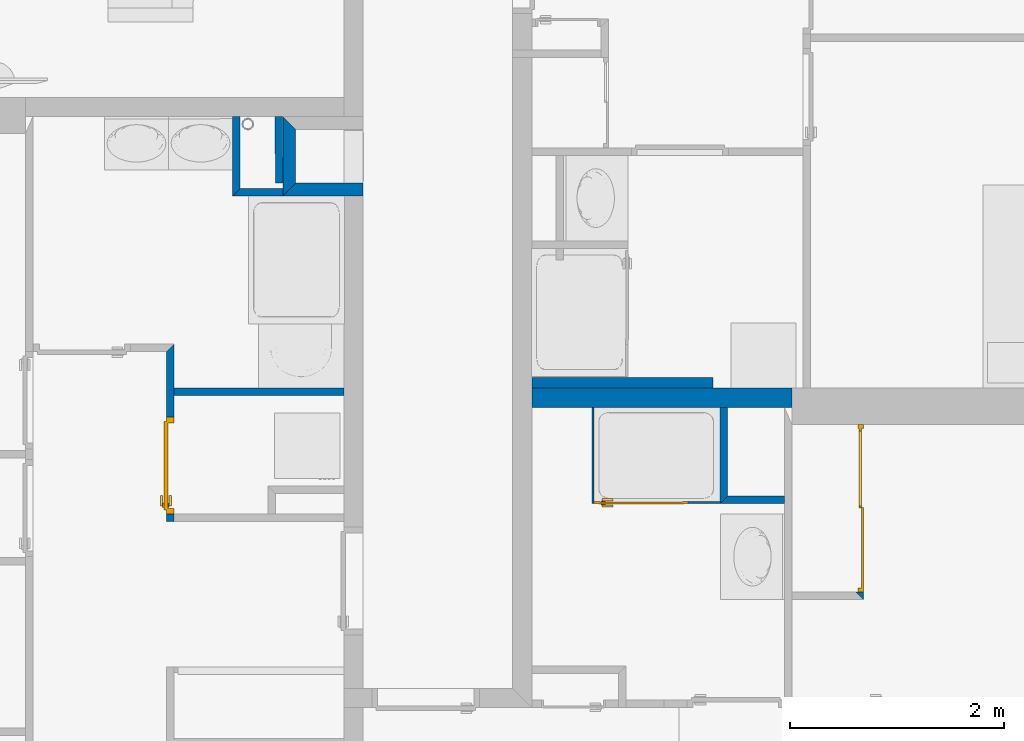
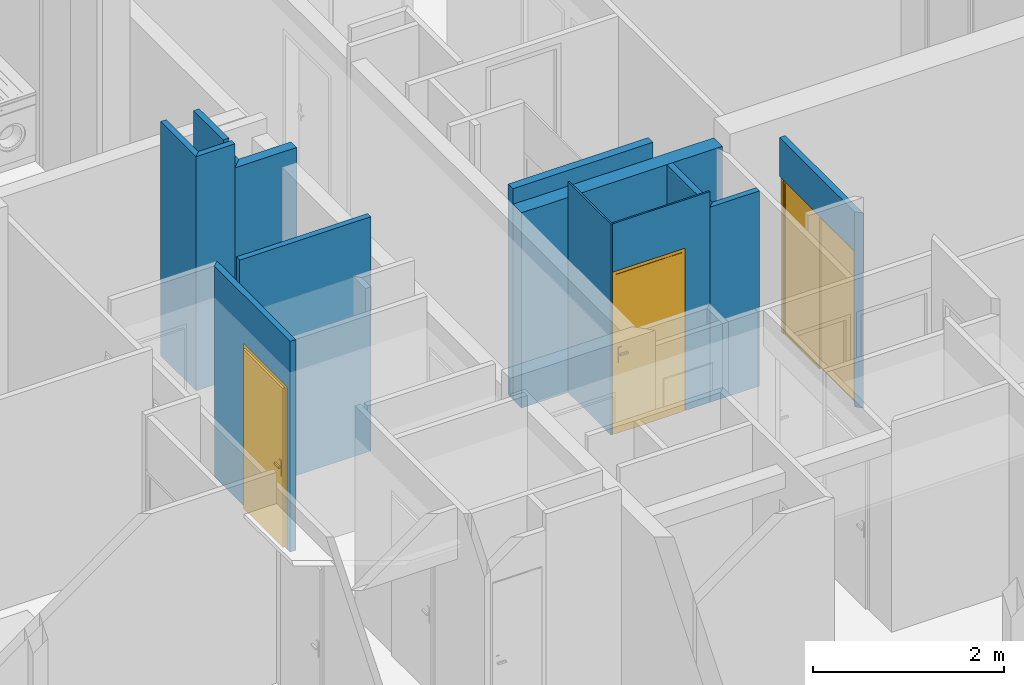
# One storey, part 33 of 171: 14 walls, 3 doors, 3 openings.
"""IFC2X3 building model written with IfcOpenShell, lengths in millimetres."""

import ifcopenshell
import ifcopenshell.guid

model = None  # the IFC model being written
_history = None  # IfcOwnerHistory: only IFC2X3 demands one
_inside = {}  # id of a spatial element -> (the spatial element, [elements in it])
_under = {}  # id of a project, library or spatial element -> (it, [spatial elements below it])
_declared = {}  # id of a project -> (the project, [libraries it declares])
_typed = {}  # id of a type object -> (the type object, [elements of that type])
_made_of = {}  # id of a material, layer set ... -> (it, [elements and type objects made of it])


def new_model(schema):
    """Start an empty IFC model of exactly this schema.

    Asked for "IFC4X3", IfcOpenShell would pick the latest addendum, in which some entities
    have other attributes; the version numbers below select the first issue.
    IFC2X3 requires an IfcOwnerHistory on every rooted entity: one is made here for all.
    """
    global model, _history
    if schema == "IFC4X3":
        model = ifcopenshell.file(schema_version=(4, 3, 0, 0))
    else:
        model = ifcopenshell.file(schema=schema)
    _inside.clear()
    _under.clear()
    _declared.clear()
    _typed.clear()
    _made_of.clear()
    _history = None
    if model.schema == "IFC2X3":
        org = make("IfcOrganization", Name="unknown")
        user = make(
            "IfcPersonAndOrganization",
            ThePerson=make("IfcPerson", FamilyName="unknown"),
            TheOrganization=org,
        )
        app = make(
            "IfcApplication",
            ApplicationDeveloper=org,
            Version="unknown",
            ApplicationFullName="unknown",
            ApplicationIdentifier="unknown",
        )
        _history = make(
            "IfcOwnerHistory",
            OwningUser=user,
            OwningApplication=app,
            ChangeAction="ADDED",
            CreationDate=0,
        )
    return model


def make(cls, **values):
    """One entity of the class cls with the attributes given. An attribute that is None is left unset."""
    return model.create_entity(
        cls, **{name: value for name, value in values.items() if value is not None}
    )


def entity(cls, *values):
    """Any entity or typed value of the class cls, its attributes in the order of the schema. None: left unset."""
    e = model.create_entity(cls)
    for i, value in enumerate(values):
        if value is not None:
            e[i] = value
    return e


def rooted(cls, **values):
    """An entity with a GlobalId (a new one), such as an element, a storey or a relation."""
    return make(cls, GlobalId=ifcopenshell.guid.new(), OwnerHistory=_history, **values)


def si_unit(unit_type, name, prefix=None):
    """IfcSIUnit, for example si_unit("LENGTHUNIT", "METRE", prefix="MILLI")."""
    return make("IfcSIUnit", UnitType=unit_type, Prefix=prefix, Name=name)


def converted_unit(unit_type, name, factor, base, dimensions=None, offset=None):
    """IfcConversionBasedUnit, such as the inch: factor (a typed value) times the base unit."""
    return make(
        "IfcConversionBasedUnit"
        if offset is None
        else "IfcConversionBasedUnitWithOffset",
        ConversionOffset=offset,
        Dimensions=None
        if dimensions is None
        else entity("IfcDimensionalExponents", *dimensions),
        UnitType=unit_type,
        Name=name,
        ConversionFactor=make(
            "IfcMeasureWithUnit", ValueComponent=factor, UnitComponent=base
        ),
    )


def derived_unit(unit_type, elements):
    """IfcDerivedUnit: a product of units, each with its exponent."""
    return make(
        "IfcDerivedUnit",
        Elements=[
            make("IfcDerivedUnitElement", Unit=unit, Exponent=power)
            for unit, power in elements
        ],
        UnitType=unit_type,
    )


def money_unit(currency):
    """IfcMonetaryUnit."""
    return make("IfcMonetaryUnit", Currency=currency)


def assignment(units):
    """IfcUnitAssignment: the units of a project."""
    return None if units is None else make("IfcUnitAssignment", Units=units)


def point(xyz):
    """IfcCartesianPoint."""
    return None if xyz is None else make("IfcCartesianPoint", Coordinates=xyz)


def direction(xyz):
    """IfcDirection."""
    return None if xyz is None else make("IfcDirection", DirectionRatios=xyz)


def frame(location, z_axis=None, x_axis=None):
    """IfcAxis2Placement3D, a coordinate frame: its origin and axes. An axis left out is left unset."""
    return make(
        "IfcAxis2Placement3D",
        Location=point(location),
        Axis=direction(z_axis),
        RefDirection=direction(x_axis),
    )


def frame_2d(location, x_axis=None):
    """IfcAxis2Placement2D, a coordinate frame in the plane: its origin and x axis."""
    return make(
        "IfcAxis2Placement2D", Location=point(location), RefDirection=direction(x_axis)
    )


def origin_with_axes():
    """The frame at (0, 0, 0) with the z axis (0, 0, 1) and the x axis (1, 0, 0) written out."""
    return frame((0.0, 0.0, 0.0), z_axis=(0.0, 0.0, 1.0), x_axis=(1.0, 0.0, 0.0))


def origin_2d_with_axis():
    """The frame at (0, 0) in the plane with the x axis (1, 0) written out."""
    return frame_2d((0.0, 0.0), x_axis=(1.0, 0.0))


def place(relative_to, where):
    """IfcLocalPlacement: puts the frame where relative to a parent placement (None: the world)."""
    return make(
        "IfcLocalPlacement", PlacementRelTo=relative_to, RelativePlacement=where
    )


def context(
    kind, dimensions, precision=None, world=None, true_north=None, identifier=None
):
    """IfcGeometricRepresentationContext, for example the 3D "Model" context."""
    return make(
        "IfcGeometricRepresentationContext",
        ContextIdentifier=identifier,
        ContextType=kind,
        CoordinateSpaceDimension=dimensions,
        Precision=precision,
        WorldCoordinateSystem=world,
        TrueNorth=true_north,
    )


def subcontext(parent, identifier, kind, view, scale=None):
    """IfcGeometricRepresentationSubContext, for example "Body" below "Model"."""
    return make(
        "IfcGeometricRepresentationSubContext",
        ContextIdentifier=identifier,
        ContextType=kind,
        ParentContext=parent,
        TargetScale=scale,
        TargetView=view,
    )


def project(units=None, contexts=None):
    """IfcProject with its units and contexts."""
    return rooted(
        "IfcProject",
        Name="project",
        RepresentationContexts=contexts,
        UnitsInContext=assignment(units),
    )


def spatial(cls, under=None, at=None, **own):
    """A site, building, storey or space (cls), placed at a placement, below another one or the project."""
    s = rooted(cls, ObjectPlacement=at, **own)
    if under is not None:
        _under.setdefault(under.id(), (under, []))[1].append(s)
    return s


def polyline(points):
    """IfcPolyline through the points."""
    return make("IfcPolyline", Points=[point(p) for p in points])


def profile(cls, at=None, kind="AREA", **sizes):
    """A parametric profile (cls). Its sizes go by their IFC names, for example OverallWidth=200.0."""
    return make(cls, ProfileType=kind, Position=at, **sizes)


def rectangle(**sizes):
    """IfcRectangleProfileDef."""
    return profile("IfcRectangleProfileDef", **sizes)


def outline(outer, holes=None, kind="AREA"):
    """IfcArbitraryClosedProfileDef: a profile drawn as a closed curve; with holes, ...WithVoids."""
    if holes is None:
        return make("IfcArbitraryClosedProfileDef", ProfileType=kind, OuterCurve=outer)
    return make(
        "IfcArbitraryProfileDefWithVoids",
        ProfileType=kind,
        OuterCurve=outer,
        InnerCurves=holes,
    )


def extrude(swept, where, along, depth):
    """IfcExtrudedAreaSolid: the profile swept, set in the frame where, extruded along a direction by depth."""
    return make(
        "IfcExtrudedAreaSolid",
        SweptArea=swept,
        Position=where,
        ExtrudedDirection=direction(along),
        Depth=depth,
    )


def faces_of(points, faces, orient=None, outer=None):
    """IfcFace entities. A face is a list of loops; a loop is a list of indices into points, from 0.

    orient and outer hold one flag for each loop. By default every Orientation is true, the
    first loop of a face is its IfcFaceOuterBound and the others are IfcFaceBound.
    """
    made = []
    for i, loops in enumerate(faces):
        bounds = []
        for j, loop in enumerate(loops):
            is_outer = j == 0 if outer is None else outer[i][j]
            bounds.append(
                make(
                    "IfcFaceOuterBound" if is_outer else "IfcFaceBound",
                    Bound=make("IfcPolyLoop", Polygon=[points[k] for k in loop]),
                    Orientation=True if orient is None else orient[i][j],
                )
            )
        made.append(make("IfcFace", Bounds=bounds))
    return made


def open_shell(faces, orient=None, outer=None):
    """The faces of one IfcOpenShell. surface_model builds it on its shared points."""
    return ("IfcOpenShell", faces, orient, outer)


def faceted_brep(points, faces, orient=None, outer=None, voids=None):
    """IfcFacetedBrep: a solid bounded by flat faces; with voids (closed shells), ...WithVoids."""
    shared = [point(p) for p in points]
    hull = make("IfcClosedShell", CfsFaces=faces_of(shared, faces, orient, outer))
    if voids is None:
        return make("IfcFacetedBrep", Outer=hull)
    return make(
        "IfcFacetedBrepWithVoids",
        Outer=hull,
        Voids=[
            make(cls, CfsFaces=faces_of(shared, fs, o, b)) for cls, fs, o, b in voids
        ],
    )


def surface_model(cls, points, shells):
    """IfcFaceBasedSurfaceModel or IfcShellBasedSurfaceModel (cls): surfaces that need not close."""
    shared = [point(p) for p in points]
    made = [make(c, CfsFaces=faces_of(shared, fs, o, b)) for c, fs, o, b in shells]
    if cls == "IfcFaceBasedSurfaceModel":
        return make(cls, FbsmFaces=made)
    return make(cls, SbsmBoundary=made)


def shape(context_of_items, identifier, shape_type, items):
    """IfcShapeRepresentation: the items that make up one representation, for example the "Body"."""
    return make(
        "IfcShapeRepresentation",
        ContextOfItems=context_of_items,
        RepresentationIdentifier=identifier,
        RepresentationType=shape_type,
        Items=items,
    )


def source(mapping_origin, context_of_items, identifier, shape_type, items):
    """IfcRepresentationMap: a shape defined once, which mapped items show again and again."""
    return make(
        "IfcRepresentationMap",
        MappingOrigin=mapping_origin,
        MappedRepresentation=shape(context_of_items, identifier, shape_type, items),
    )


def transform(
    local_origin,
    x_axis=None,
    y_axis=None,
    z_axis=None,
    scale=None,
    scale2=None,
    scale3=None,
    uniform=True,
):
    """IfcCartesianTransformationOperator3D, or its non-uniform kind. x_axis, y_axis, z_axis: its Axis1, 2, 3."""
    if uniform:
        return make(
            "IfcCartesianTransformationOperator3D",
            Axis1=direction(x_axis),
            Axis2=direction(y_axis),
            LocalOrigin=point(local_origin),
            Scale=scale,
            Axis3=direction(z_axis),
        )
    return make(
        "IfcCartesianTransformationOperator3DnonUniform",
        Axis1=direction(x_axis),
        Axis2=direction(y_axis),
        LocalOrigin=point(local_origin),
        Scale=scale,
        Axis3=direction(z_axis),
        Scale2=scale2,
        Scale3=scale3,
    )


def mapped(mapping_source, mapping_target):
    """IfcMappedItem: shows the shape of a source again, moved by a transform."""
    return make(
        "IfcMappedItem", MappingSource=mapping_source, MappingTarget=mapping_target
    )


def material(Name=None, Category=None):
    """IfcMaterial."""
    return make("IfcMaterial", Name=Name, Category=Category)


def layer(
    of_material, thickness, ventilated=None, Name=None, Category=None, Priority=None
):
    """IfcMaterialLayer: one layer of a wall or slab, of a material (None: an air gap)."""
    return make(
        "IfcMaterialLayer",
        Material=of_material,
        LayerThickness=thickness,
        IsVentilated=ventilated,
        Name=Name,
        Category=Category,
        Priority=Priority,
    )


def layer_set(layers, Name=None):
    """IfcMaterialLayerSet."""
    return make("IfcMaterialLayerSet", MaterialLayers=layers, LayerSetName=Name)


def layer_usage(for_layer_set, set_direction, sense, offset, extent=None):
    """IfcMaterialLayerSetUsage: how a layer set lies in its element."""
    return make(
        "IfcMaterialLayerSetUsage",
        ForLayerSet=for_layer_set,
        LayerSetDirection=set_direction,
        DirectionSense=sense,
        OffsetFromReferenceLine=offset,
        ReferenceExtent=extent,
    )


def made_of(thing, what):
    """Note that an element or type object is made of a material, layer set ...; save() writes the relation."""
    if what is not None:
        _made_of.setdefault(what.id(), (what, []))[1].append(thing)
    return thing


def type_object(cls, material=None, **own):
    """A type object (cls), such as IfcWallType, which elements share."""
    return made_of(rooted(cls, **own), material)


def element(
    cls,
    number,
    at=None,
    inside=None,
    cuts=None,
    type_object=None,
    material=None,
    context=None,
    identifier="Body",
    shape_type=None,
    held_by="IfcProductDefinitionShape",
    body=None,
    shapes=None,
    **own,
):
    """One element of the class cls, such as IfcWall. Its Tag is "e" and its number.

    at: its placement. inside: the storey or other place that contains it. cuts: it is an
    opening in that element (IfcRelVoidsElement). A single representation is given by context,
    identifier, shape_type and body (its items); several are given by shapes. held_by: the class
    of the entity that holds the representations. save() writes the other relations.
    """
    e = rooted(cls, Tag="e%d" % number, ObjectPlacement=at, **own)
    if body is not None:
        shapes = [shape(context, identifier, shape_type, body)]
    if shapes is not None:
        e.Representation = make(held_by, Representations=shapes)
    if inside is not None:
        _inside.setdefault(inside.id(), (inside, []))[1].append(e)
    if cuts is not None:
        rooted(
            "IfcRelVoidsElement", RelatingBuildingElement=cuts, RelatedOpeningElement=e
        )
    if type_object is not None:
        _typed.setdefault(type_object.id(), (type_object, []))[1].append(e)
    return made_of(e, material)


def fill(opening, filler):
    """IfcRelFillsElement: the door or window that sits in an opening."""
    return rooted(
        "IfcRelFillsElement",
        RelatingOpeningElement=opening,
        RelatedBuildingElement=filler,
    )


def aggregate(whole, parts):
    """IfcRelAggregates: a whole, such as a stair, and the parts it consists of."""
    return rooted("IfcRelAggregates", RelatingObject=whole, RelatedObjects=parts)


def save(model, path):
    """Write the relations noted so far, then the file.

    IfcRelAggregates (storeys below a building ...), IfcRelContainedInSpatialStructure (elements
    in a storey), IfcRelDefinesByType, IfcRelAssociatesMaterial and IfcRelDeclares: one each for
    every whole, place, type object, material and project.
    """
    for whole, parts in _under.values():
        aggregate(whole, parts)
    for where, things in _inside.values():
        rooted(
            "IfcRelContainedInSpatialStructure",
            RelatedElements=things,
            RelatingStructure=where,
        )
    for kind, things in _typed.values():
        rooted("IfcRelDefinesByType", RelatedObjects=things, RelatingType=kind)
    for what, things in _made_of.values():
        rooted("IfcRelAssociatesMaterial", RelatedObjects=things, RelatingMaterial=what)
    for by, libraries in _declared.values():
        rooted("IfcRelDeclares", RelatingContext=by, RelatedDefinitions=libraries)
    model.write(path)


model = new_model("IFC2X3")

# Units and contexts
model_context = context("Model", 3, precision=0.01, world=origin_with_axes(), true_north=direction((0.0, 1.0)))
body_context = subcontext(model_context, "Body", "Model", "MODEL_VIEW")
ifc_project = project(units=[si_unit("LENGTHUNIT", "METRE", prefix="MILLI"), si_unit("AREAUNIT", "SQUARE_METRE"), si_unit("VOLUMEUNIT", "CUBIC_METRE"), converted_unit("PLANEANGLEUNIT", "DEGREE", entity("IfcPlaneAngleMeasure", 0.0174532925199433), si_unit("PLANEANGLEUNIT", "RADIAN"), dimensions=[0, 0, 0, 0, 0, 0, 0]), money_unit("USD"), converted_unit("TIMEUNIT", "Year", entity("IfcTimeMeasure", 31557600.0), si_unit("TIMEUNIT", "SECOND"), dimensions=[0, 0, 1, 0, 0, 0, 0]), si_unit("MASSUNIT", "GRAM", prefix="KILO"), si_unit("THERMODYNAMICTEMPERATUREUNIT", "DEGREE_CELSIUS"), si_unit("LUMINOUSINTENSITYUNIT", "LUMEN"), si_unit("ENERGYUNIT", "JOULE", prefix="MEGA"), derived_unit("THERMALCONDUCTANCEUNIT", [(si_unit("POWERUNIT", "WATT"), 1), (si_unit("LENGTHUNIT", "METRE"), -1), (si_unit("THERMODYNAMICTEMPERATUREUNIT", "KELVIN"), -1)]), derived_unit("SPECIFICHEATCAPACITYUNIT", [(si_unit("ENERGYUNIT", "JOULE"), 1), (si_unit("MASSUNIT", "GRAM", prefix="KILO"), -1), (si_unit("THERMODYNAMICTEMPERATUREUNIT", "KELVIN"), -1)]), derived_unit("MASSDENSITYUNIT", [(si_unit("MASSUNIT", "GRAM", prefix="KILO"), 1), (si_unit("VOLUMEUNIT", "CUBIC_METRE"), -1)])], contexts=[model_context])

# Site, building, storey
site_placement = place(None, origin_with_axes())
site = spatial("IfcSite", under=ifc_project, at=site_placement, Name="Site", CompositionType="ELEMENT")
building_placement = place(site_placement, origin_with_axes())
building = spatial("IfcBuilding", under=site, at=building_placement, Name="Bâtiment", CompositionType="ELEMENT")
storey_placement = place(building_placement, frame((0.0, 0.0, 3000.0), z_axis=(0.0, 0.0, 1.0), x_axis=(1.0, 0.0, 0.0)))
storey = spatial("IfcBuildingStorey", under=building, at=storey_placement, Name="rdc", CompositionType="ELEMENT", Elevation=3000.0)

# Wall
ifc_material_1 = material(Name="Parpaing 314940890")
ifc_layer_1 = layer(ifc_material_1, 180.0, ventilated="UNKNOWN")
ifc_layer_set_1 = layer_set([ifc_layer_1], Name="Beton  18 0018356637")
ifc_layer_usage_1 = layer_usage(ifc_layer_set_1, "AXIS2", "NEGATIVE", 0.0)
wall_type_1 = type_object("IfcWallType", Name="Beton  18 0018356637 180", PredefinedType="NOTDEFINED")
wall_1_placement = place(storey_placement, frame((2225712.31835196, -646738.4413036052, 0.0), z_axis=(0.0, 0.0, 1.0), x_axis=(1.0, 0.0, 0.0)))
element("IfcWallStandardCase", 1, at=wall_1_placement, inside=storey, type_object=wall_type_1, material=ifc_layer_usage_1, Name="Mur-142", context=body_context, shape_type="SweptSolid", body=[
    extrude(outline(polyline([(180.0000047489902, -180.0000000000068), (2614.562191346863, -180.0000000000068), (2614.562191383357, 0.0), (180.0000047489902, 0.0), (180.0000047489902, -180.0000000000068)])), origin_with_axes(), (0.0, 0.0, 1.0), 2500.0),
])

# Wall, opening, door
ifc_material_2 = material(Name="Hachure solide 268963992")
ifc_layer_2 = layer(ifc_material_2, 70.0, ventilated="UNKNOWN")
ifc_layer_set_2 = layer_set([ifc_layer_2], Name="Cloison 70 0826278243")
ifc_layer_usage_2 = layer_usage(ifc_layer_set_2, "AXIS2", "NEGATIVE", 70.0)
wall_type_2 = type_object("IfcWallType", Name="Cloison 70 0826278243 70", PredefinedType="NOTDEFINED")
wall_2_placement = place(storey_placement, frame((2222472.351167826, -646327.0248240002, 0.0), z_axis=(0.0, 0.0, 1.0), x_axis=(1.457661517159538e-07, -0.9999999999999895, 0.0)))
wall_2 = element("IfcWallStandardCase", 2, at=wall_2_placement, inside=storey, type_object=wall_type_2, material=ifc_layer_usage_2, Name="Mur-149", context=body_context, shape_type="SweptSolid", body=[
    extrude(outline(polyline([(69.99999999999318, 0.0), (1661.504036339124, 0.0), (1661.504036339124, 70.00000000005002), (1.020362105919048e-05, 70.00000000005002), (69.99999999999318, 0.0)])), origin_with_axes(), (0.0, 0.0, 1.0), 2700.0),
])
opening_1_placement = place(wall_2_placement, frame((1136.504046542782, -1.13686837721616e-10, 0.0), z_axis=(0.0, 0.0, 1.0), x_axis=(1.0, 0.0, 0.0)))
opening_1 = element("IfcOpeningElement", 3, at=opening_1_placement, cuts=wall_2, Name="Por-284", context=body_context, shape_type="SweptSolid", body=[
    extrude(rectangle(XDim=910.0, YDim=2080.0, at=origin_2d_with_axis()), frame((0.0, 70.00000000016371, 1040.0), z_axis=(0.0, -1.0, 0.0), x_axis=(-1.0, 0.0, 0.0)), (0.0, 0.0, 1.0), 140.0),
])
door_style_1 = type_object("IfcDoorStyle", Name="Porte_1v", ConstructionType="NOTDEFINED", OperationType="NOTDEFINED", ParameterTakesPrecedence=False, Sizeable=False)
shared_shape_1 = source(origin_with_axes(), body_context, "Body", "Brep", [
    faceted_brep([(454.9999999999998, 0.0, 0.0), (414.9999999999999, 0.0, 0.0), (414.9999999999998, 0.0, 2040.0), (-414.9999999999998, 0.0, 2040.0), (-414.9999999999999, 0.0, 0.0), (-454.9999999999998, 0.0, 0.0), (-454.9999999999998, 0.0, 2080.0), (454.9999999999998, 0.0, 2080.0), (454.9999999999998, -69.99999999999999, 0.0), (399.9999999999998, -69.99999999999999, 0.0), (399.9999999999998, -15.0, 0.0), (414.9999999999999, -15.0, 0.0), (414.9999999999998, -15.0, 2040.0), (-414.9999999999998, -15.0, 2040.0), (-414.9999999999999, -15.0, 0.0), (-399.9999999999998, -15.0, 0.0), (-399.9999999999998, -69.99999999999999, 0.0), (-454.9999999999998, -69.99999999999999, 0.0), (-454.9999999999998, -69.99999999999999, 2080.0), (454.9999999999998, -69.99999999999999, 2080.0), (-399.9999999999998, -69.99999999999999, 2025.0), (399.9999999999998, -69.99999999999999, 2025.0), (399.9999999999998, -15.0, 2025.0), (-399.9999999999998, -15.0, 2025.0)], [[[0, 1, 2, 3, 4, 5, 6, 7]], [[0, 8, 9, 10, 11, 1]], [[1, 11, 12, 2]], [[2, 12, 13, 3]], [[3, 13, 14, 4]], [[5, 4, 14, 15, 16, 17]], [[18, 6, 5, 17]], [[19, 7, 6, 18]], [[8, 0, 7, 19]], [[9, 8, 19, 18, 17, 16, 20, 21]], [[10, 9, 21, 22]], [[11, 10, 22, 23, 15, 14, 13, 12]], [[23, 20, 16, 15]], [[22, 21, 20, 23]]]),
    faceted_brep([(-349.9999999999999, -15.0, 900.0), (-389.9999999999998, -15.0, 900.0), (-389.9999999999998, -15.0, 1100.0), (-349.9999999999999, -15.0, 1100.0), (-349.9999999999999, -24.99999999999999, 900.0), (-389.9999999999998, -24.99999999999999, 900.0), (-389.9999999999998, -24.99999999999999, 1100.0), (-349.9999999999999, -24.99999999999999, 1100.0)], [[[0, 1, 2, 3]], [[1, 0, 4, 5]], [[2, 1, 5, 6]], [[3, 2, 6, 7]], [[0, 3, 7, 4]], [[5, 4, 7, 6]]]),
    faceted_brep([(-279.9999999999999, -24.99999999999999, 1000.0), (-379.9999999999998, -24.99999999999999, 1000.0), (-379.9999999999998, -24.99999999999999, 1020.0), (-279.9999999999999, -24.99999999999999, 1020.0), (-279.9999999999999, -44.99999999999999, 1000.0), (-379.9999999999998, -44.99999999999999, 1000.0), (-379.9999999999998, -44.99999999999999, 1020.0), (-279.9999999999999, -44.99999999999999, 1020.0)], [[[0, 1, 2, 3]], [[1, 0, 4, 5]], [[2, 1, 5, 6]], [[3, 2, 6, 7]], [[0, 3, 7, 4]], [[5, 4, 7, 6]]]),
    faceted_brep([(-349.9999999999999, 34.99999999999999, 900.0), (-389.9999999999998, 34.99999999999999, 900.0), (-389.9999999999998, 34.99999999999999, 1100.0), (-349.9999999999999, 34.99999999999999, 1100.0), (-349.9999999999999, 24.99999999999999, 900.0), (-389.9999999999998, 24.99999999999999, 900.0), (-389.9999999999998, 24.99999999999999, 1100.0), (-349.9999999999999, 24.99999999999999, 1100.0)], [[[0, 1, 2, 3]], [[1, 0, 4, 5]], [[2, 1, 5, 6]], [[3, 2, 6, 7]], [[0, 3, 7, 4]], [[5, 4, 7, 6]]]),
    faceted_brep([(-279.9999999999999, 54.99999999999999, 1000.0), (-379.9999999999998, 54.99999999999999, 1000.0), (-379.9999999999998, 54.99999999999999, 1020.0), (-279.9999999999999, 54.99999999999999, 1020.0), (-279.9999999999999, 34.99999999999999, 1000.0), (-379.9999999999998, 34.99999999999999, 1000.0), (-379.9999999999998, 34.99999999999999, 1020.0), (-279.9999999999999, 34.99999999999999, 1020.0)], [[[0, 1, 2, 3]], [[1, 0, 4, 5]], [[2, 1, 5, 6]], [[3, 2, 6, 7]], [[0, 3, 7, 4]], [[5, 4, 7, 6]]]),
    faceted_brep([(-414.9999999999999, 24.99999999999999, 0.0), (414.9999999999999, 24.99999999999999, 0.0), (414.9999999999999, -15.0, 0.0), (-414.9999999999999, -15.0, 0.0), (-414.9999999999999, 24.99999999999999, 2040.0), (414.9999999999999, 24.99999999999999, 2040.0), (414.9999999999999, -15.0, 2040.0), (-414.9999999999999, -15.0, 2040.0)], [[[0, 1, 2, 3]], [[0, 4, 5, 1]], [[1, 5, 6, 2]], [[3, 2, 6, 7]], [[4, 0, 3, 7]], [[5, 4, 7, 6]]]),
])
door_1_placement = place(opening_1_placement, frame((415.0000000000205, 3.410605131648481e-10, 0.0), z_axis=(0.0, 0.0, 1.0), x_axis=(-1.0, 0.0, 0.0)))
door_1 = element("IfcDoor", 4, at=door_1_placement, inside=storey, type_object=door_style_1, Name="Por-284", OverallHeight=2040.0, OverallWidth=830.0, context=body_context, shape_type="MappedRepresentation", body=[
    mapped(shared_shape_1, transform((415.0000000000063, 1.13686837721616e-10, 0.0))),
])
fill(opening_1, door_1)

# Wall
ifc_layer_usage_3 = layer_usage(ifc_layer_set_2, "AXIS2", "NEGATIVE", 70.0)
wall_3_placement = place(storey_placement, frame((2227655.056988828, -646738.4413036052, 0.0), z_axis=(0.0, 0.0, 1.0), x_axis=(0.0, -1.0, 0.0)))
element("IfcWallStandardCase", 5, at=wall_3_placement, inside=storey, type_object=wall_type_2, material=ifc_layer_usage_3, Name="Mur-149", context=body_context, shape_type="SweptSolid", body=[
    extrude(outline(polyline([(180.0000000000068, 0.0), (1080.872744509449, 0.0), (1010.872744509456, 70.00000000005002), (180.0000000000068, 70.00000000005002), (180.0000000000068, 0.0)])), origin_with_axes(), (0.0, 0.0, 1.0), 2500.000000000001),
])

# Wall, opening, door
ifc_layer_usage_4 = layer_usage(ifc_layer_set_2, "AXIS2", "POSITIVE", -70.0)
wall_4_placement = place(storey_placement, frame((2228996.880543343, -646738.4413036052, 0.0), z_axis=(0.0, 0.0, 1.0), x_axis=(0.0, -1.0, 0.0)))
wall_4 = element("IfcWallStandardCase", 6, at=wall_4_placement, inside=storey, type_object=wall_type_2, material=ifc_layer_usage_4, Name="Mur-149", context=body_context, shape_type="SweptSolid", body=[
    extrude(outline(polyline([(340.0000002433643, -70.00000000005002), (1908.59990796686, -70.00000000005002), (1978.599907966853, 0.0), (340.0000002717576, 0.0), (340.0000002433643, -70.00000000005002)])), origin_with_axes(), (0.0, 0.0, 1.0), 2500.0),
])
opening_2_placement = place(wall_4_placement, frame((1124.299953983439, 1.13686837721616e-10, 0.0), z_axis=(0.0, 0.0, 1.0), x_axis=(1.0, 0.0, 0.0)))
opening_2 = element("IfcOpeningElement", 7, at=opening_2_placement, cuts=wall_4, Name="Por-321", context=body_context, shape_type="SweptSolid", body=[
    extrude(rectangle(XDim=1568.599907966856, YDim=2000.0, at=origin_2d_with_axis()), frame((0.0, 0.0, 1000.0), z_axis=(0.0, -1.0, 0.0), x_axis=(1.0, 0.0, 0.0)), (0.0, 0.0, -1.0), 70.0),
    extrude(rectangle(XDim=1568.599907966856, YDim=2000.0, at=origin_2d_with_axis()), frame((0.0, 0.0, 1000.0), z_axis=(0.0, 1.0, 0.0), x_axis=(1.0, 0.0, 0.0)), (0.0, 0.0, -1.0), 70.0),
])
door_style_2 = type_object("IfcDoorStyle", ConstructionType="NOTDEFINED", OperationType="NOTDEFINED", ParameterTakesPrecedence=False, Sizeable=False)
shared_shape_2 = source(origin_with_axes(), body_context, "Body", "SurfaceModel", [
    faceted_brep([(784.299953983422, 0.0, 0.0), (744.2999539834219, 0.0, 0.0), (744.2999539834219, 0.0, 1960.0), (-744.2999539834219, 0.0, 1960.0), (-744.2999539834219, 0.0, 0.0), (-784.299953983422, 0.0, 0.0), (-784.299953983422, 0.0, 2000.0), (784.299953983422, 0.0, 2000.0), (784.299953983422, -50.0, 0.0), (744.2999539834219, -50.0, 0.0), (744.2999539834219, -10.0, 0.0), (744.2999539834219, -10.0, 1960.0), (-744.2999539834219, -10.0, 1960.0), (-744.2999539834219, -10.0, 0.0), (-744.2999539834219, -50.0, 0.0), (-784.299953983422, -50.0, 0.0), (-784.299953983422, -50.0, 2000.0), (784.299953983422, -50.0, 2000.0), (-744.2999539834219, -50.0, 1960.0), (744.2999539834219, -50.0, 1960.0)], [[[0, 1, 2, 3, 4, 5, 6, 7]], [[0, 8, 9, 10, 1]], [[1, 10, 11, 2]], [[2, 11, 12, 3]], [[3, 12, 13, 4]], [[5, 4, 13, 14, 15]], [[16, 6, 5, 15]], [[17, 7, 6, 16]], [[8, 0, 7, 17]], [[9, 8, 17, 16, 15, 14, 18, 19]], [[10, 9, 19, 11]], [[11, 19, 18, 12]], [[12, 18, 14, 13]]]),
    faceted_brep([(-744.2999539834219, -20.0, 0.0), (0.0, -20.0, 0.0), (0.0, -40.0, 0.0), (-744.2999539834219, -40.0, 0.0), (-744.2999539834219, -20.0, 1960.0), (0.0, -20.0, 1960.0), (-724.2999539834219, -20.0, 20.0), (-20.00000000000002, -20.0, 20.0), (-20.00000000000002, -20.0, 1940.0), (-724.2999539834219, -20.0, 1940.0), (0.0, -40.0, 1960.0), (-744.2999539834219, -40.0, 1960.0), (-724.2999539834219, -40.0, 20.0), (-724.2999539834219, -40.0, 1940.0), (-20.00000000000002, -40.0, 1940.0), (-20.00000000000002, -40.0, 20.0)], [[[0, 1, 2, 3]], [[0, 4, 5, 1], [6, 7, 8, 9]], [[1, 5, 10, 2]], [[3, 2, 10, 11], [12, 13, 14, 15]], [[4, 0, 3, 11]], [[5, 4, 11, 10]], [[7, 6, 12, 15]], [[8, 7, 15, 14]], [[9, 8, 14, 13]], [[6, 9, 13, 12]]]),
    surface_model("IfcShellBasedSurfaceModel", [(-724.2999539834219, -30.0, 20.0), (-20.00000000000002, -30.0, 20.0), (-20.00000000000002, -30.0, 1940.0), (-724.2999539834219, -30.0, 1940.0)], [open_shell([[[0, 1, 2, 3]]])]),
    faceted_brep([(-5.000000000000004, 0.0, 0.0), (744.2999539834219, 0.0, 0.0), (744.2999539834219, -20.0, 0.0), (-5.000000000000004, -20.0, 0.0), (-5.000000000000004, 0.0, 1960.0), (744.2999539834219, 0.0, 1960.0), (744.2999539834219, -20.0, 1960.0), (-5.000000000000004, -20.0, 1960.0)], [[[0, 1, 2, 3]], [[0, 4, 5, 1]], [[1, 5, 6, 2]], [[3, 2, 6, 7]], [[4, 0, 3, 7]], [[5, 4, 7, 6]]]),
])
door_2_placement = place(opening_2_placement, frame((-784.2999539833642, 1.13686837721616e-10, 0.0), z_axis=(0.0, 0.0, 1.0), x_axis=(1.0, 0.0, 0.0)))
door_2 = element("IfcDoor", 8, at=door_2_placement, inside=storey, type_object=door_style_2, Name="Por-321", OverallHeight=2000.0, OverallWidth=1568.6, context=body_context, shape_type="MappedRepresentation", body=[
    mapped(shared_shape_2, transform((784.299953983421, 0.0, 0.0))),
])
fill(opening_2, door_2)

# Walls
ifc_layer_usage_5 = layer_usage(ifc_layer_set_2, "AXIS2", "NEGATIVE", 70.0)
wall_5_placement = place(storey_placement, frame((2227655.056988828, -647819.3140481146, 0.0), z_axis=(0.0, 0.0, 1.0), x_axis=(1.0, 0.0, 0.0)))
element("IfcWallStandardCase", 9, at=wall_5_placement, inside=storey, type_object=wall_type_2, material=ifc_layer_usage_5, Name="Mur-149", context=body_context, shape_type="SweptSolid", body=[
    extrude(outline(polyline([(0.0, 0.0), (601.8235545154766, 0.0), (601.8235545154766, 69.99999999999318), (70.00000000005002, 69.99999999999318), (0.0, 0.0)])), origin_with_axes(), (0.0, 0.0, 1.0), 2500.0),
])
ifc_layer_usage_6 = layer_usage(ifc_layer_set_2, "AXIS2", "POSITIVE", -70.0)
wall_6_placement = place(storey_placement, frame((2223091.726875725, -644940.5007987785, 0.0), z_axis=(0.0, 0.0, 1.0), x_axis=(0.0, 1.0, 0.0)))
element("IfcWallStandardCase", 10, at=wall_6_placement, inside=storey, type_object=wall_type_2, material=ifc_layer_usage_6, Name="Mur-149", context=body_context, shape_type="SweptSolid", body=[
    extrude(outline(polyline([(70.24542374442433, -70.00000000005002), (743.9690188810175, -70.00000000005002), (743.9690188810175, 0.0), (0.0, 0.0), (70.24542374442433, -70.00000000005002)])), origin_with_axes(), (0.0, 0.0, 1.0), 3000.0),
])
ifc_layer_usage_7 = layer_usage(ifc_layer_set_2, "AXIS2", "POSITIVE", -70.0)
wall_7_placement = place(storey_placement, frame((2223557.896285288, -644016.3764239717, 0.0), z_axis=(0.0, 0.0, 1.0), x_axis=(0.005630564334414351, -0.999984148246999, 0.0)))
element("IfcWallStandardCase", 11, at=wall_7_placement, inside=storey, type_object=wall_type_2, material=ifc_layer_usage_7, Name="Mur-149", context=body_context, shape_type="SweptSolid", body=[
    extrude(outline(polyline([(179.6087055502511, -70.00000000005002), (802.096356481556, -70.00000000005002), (802.4905022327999, 0.0), (180.0028499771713, 0.0), (179.6087055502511, -70.00000000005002)])), origin_with_axes(), (0.0, 0.0, 1.0), 3000.0),
])
ifc_layer_usage_8 = layer_usage(ifc_layer_set_2, "AXIS2", "POSITIVE", -70.0)
wall_8_placement = place(storey_placement, frame((2223562.191724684, -644938.8542053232, 0.0), z_axis=(0.0, 0.0, 1.0), x_axis=(-0.9999938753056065, -0.003499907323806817, 0.0)))
element("IfcWallStandardCase", 12, at=wall_8_placement, inside=storey, type_object=wall_type_2, material=ifc_layer_usage_8, Name="Mur-149", context=body_context, shape_type="SweptSolid", body=[
    extrude(outline(polyline([(-0.2878231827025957, -70.00000000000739), (400.2223066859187, -70.00000000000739), (470.4677304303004, 0.0), (-1.13686837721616e-10, 0.0), (-0.2878231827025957, -70.00000000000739)])), origin_with_axes(), (0.0, 0.0, 1.0), 3000.0),
])
ifc_layer_usage_9 = layer_usage(ifc_layer_set_2, "AXIS2", "POSITIVE", -70.0)
wall_9_placement = place(storey_placement, frame((2222472.350736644, -646738.8568963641, 0.0), z_axis=(0.0, 0.0, 1.0), x_axis=(1.0, 0.0, 0.0)))
element("IfcWallStandardCase", 13, at=wall_9_placement, inside=storey, type_object=wall_type_2, material=ifc_layer_usage_9, Name="Mur-149", context=body_context, shape_type="SweptSolid", body=[
    extrude(outline(polyline([(70.0005014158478, -69.99999999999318), (1660.020947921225, -69.99999999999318), (1660.021286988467, 0.0), (70.00049121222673, 0.0), (70.0005014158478, -69.99999999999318)])), origin_with_axes(), (0.0, 0.0, 1.0), 3000.0),
])
ifc_material_3 = material(Name="AS_EMPTY 272048125")
ifc_layer_3 = layer(ifc_material_3, 20.0, ventilated="UNKNOWN")
ifc_material_4 = material(Name="Isolant styromousse 275581351")
ifc_layer_4 = layer(ifc_material_4, 80.0, ventilated="UNKNOWN")
ifc_layer_5 = layer(ifc_material_3, 20.0, ventilated="UNKNOWN")
ifc_layer_set_3 = layer_set([ifc_layer_3, ifc_layer_4, ifc_layer_5], Name="SAA 120")
ifc_layer_usage_10 = layer_usage(ifc_layer_set_3, "AXIS2", "NEGATIVE", 0.0)
wall_type_3 = type_object("IfcWallType", Name="SAA 120 120", PredefinedType="NOTDEFINED")
wall_10_placement = place(storey_placement, frame((2223562.191724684, -644938.8542053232, 0.0), z_axis=(0.0, 0.0, 1.0), x_axis=(0.0006118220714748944, 0.9999998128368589, 0.0)))
element("IfcWallStandardCase", 14, at=wall_10_placement, inside=storey, type_object=wall_type_3, material=ifc_layer_usage_10, Name="Mur-156", context=body_context, shape_type="SweptSolid", body=[
    extrude(outline(polyline([(120.0734411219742, -119.9999999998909), (622.5513307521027, -120.0000000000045), (742.4779345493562, 0.0), (0.0, 0.0), (120.0734411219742, -119.9999999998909)])), origin_with_axes(), (0.0, 0.0, 1.0), 2690.0),
])
ifc_layer_usage_11 = layer_usage(ifc_layer_set_3, "AXIS2", "POSITIVE", 0.0)
wall_11_placement = place(storey_placement, frame((2223562.191724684, -644938.8542053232, 0.0), z_axis=(0.0, 0.0, 1.0), x_axis=(1.0, 0.0, 0.0)))
element("IfcWallStandardCase", 15, at=wall_11_placement, inside=storey, type_object=wall_type_3, material=ifc_layer_usage_11, Name="Mur-156", context=body_context, shape_type="SweptSolid", body=[
    extrude(outline(polyline([(1.13686837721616e-10, 0.0), (751.3838163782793, 0.0), (751.3838163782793, 120.0000000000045), (120.073441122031, 119.9999999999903), (1.13686837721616e-10, 0.0)])), origin_with_axes(), (0.0, 0.0, 1.0), 2690.0),
])
ifc_material_5 = material(Name="Empty Fill 292498448")
ifc_layer_6 = layer(ifc_material_5, 20.0, ventilated="UNKNOWN")
ifc_layer_set_4 = layer_set([ifc_layer_6], Name="mur 2cm")
ifc_layer_usage_12 = layer_usage(ifc_layer_set_4, "AXIS2", "NEGATIVE", 20.0)
wall_type_4 = type_object("IfcWallType", Name="mur 2cm 20", PredefinedType="NOTDEFINED")
wall_12_placement = place(storey_placement, frame((2226456.781996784, -646738.4413036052, 0.0), z_axis=(0.0, 0.0, 1.0), x_axis=(0.0, -1.0, 0.0)))
element("IfcWallStandardCase", 16, at=wall_12_placement, inside=storey, type_object=wall_type_4, material=ifc_layer_usage_12, Name="Mur-148", context=body_context, shape_type="SweptSolid", body=[
    extrude(outline(polyline([(180.0000000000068, 0.0), (1080.00000066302, 0.0), (1080.00000066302, 19.99999999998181), (180.0000000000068, 19.99999999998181), (180.0000000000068, 0.0)])), origin_with_axes(), (0.0, 0.0, 1.0), 2700.0),
])

# Wall, opening, door
ifc_layer_usage_13 = layer_usage(ifc_layer_set_4, "AXIS2", "NEGATIVE", 20.0)
wall_13_placement = place(storey_placement, frame((2226476.67166627, -647817.9289635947, 0.0), z_axis=(0.0, 0.0, 1.0), x_axis=(0.999999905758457, -0.0004341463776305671, 0.0)))
wall_13 = element("IfcWallStandardCase", 17, at=wall_13_placement, inside=storey, type_object=wall_type_4, material=ifc_layer_usage_13, Name="Mur-148", context=body_context, shape_type="SweptSolid", body=[
    extrude(outline(polyline([(0.0, 0.0), (1180.11044172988, 0.0), (1180.11044172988, 19.99999999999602), (-1.13686837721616e-10, 19.99999999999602), (0.0, 0.0)])), origin_with_axes(), (0.0, 0.0, 1.0), 2700.0),
])
opening_3_placement = place(wall_13_placement, frame((439.9999999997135, 0.0, 0.0), z_axis=(0.0, 0.0, 1.0), x_axis=(1.0, 0.0, 0.0)))
opening_3 = element("IfcOpeningElement", 18, at=opening_3_placement, cuts=wall_13, Name="Por-288", context=body_context, shape_type="SweptSolid", body=[
    extrude(rectangle(XDim=880.0000119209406, YDim=2080.0, at=origin_2d_with_axis()), frame((5.960487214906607e-06, 20.00000000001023, 1040.0), z_axis=(0.0, 1.0, 0.0), x_axis=(1.0, 0.0, 0.0)), (0.0, 0.0, -1.0), 40.0),
])
shared_shape_3 = source(origin_with_axes(), body_context, "Body", "Brep", [
    faceted_brep([(-440.0, 0.0, 0.0), (-440.0, 0.0, 2080.0), (440.0, 0.0, 2080.0), (440.0, 0.0, 0.0), (400.0, 0.0, 0.0), (400.0, 0.0, 2040.0), (-400.0, 0.0, 2040.0), (-400.0, 0.0, 0.0), (-440.0, -20.0, 0.0), (-440.0, -20.0, 2080.0), (440.0, -20.0, 2080.0), (440.0, -20.0, 0.0), (385.0, -20.0, 0.0), (385.0, -15.0, 0.0), (400.0, -15.0, 0.0), (400.0, -15.0, 2040.0), (-400.0, -15.0, 2040.0), (-400.0, -15.0, 0.0), (-385.0, -15.0, 0.0), (-385.0, -20.0, 0.0), (-385.0, -20.0, 2025.0), (385.0, -20.0, 2025.0), (385.0, -15.0, 2025.0), (-385.0, -15.0, 2025.0)], [[[0, 1, 2, 3, 4, 5, 6, 7]], [[8, 9, 1, 0]], [[9, 10, 2, 1]], [[10, 11, 3, 2]], [[3, 11, 12, 13, 14, 4]], [[5, 4, 14, 15]], [[6, 5, 15, 16]], [[7, 6, 16, 17]], [[0, 7, 17, 18, 19, 8]], [[19, 20, 21, 12, 11, 10, 9, 8]], [[22, 13, 12, 21]], [[17, 16, 15, 14, 13, 22, 23, 18]], [[18, 23, 20, 19]], [[23, 22, 21, 20]]]),
    faceted_brep([(335.0, -15.0, 900.0), (335.0, -15.0, 1100.0), (375.0, -15.0, 1100.0), (375.0, -15.0, 900.0), (335.0, -25.0, 900.0), (335.0, -25.0, 1100.0), (375.0, -25.0, 1100.0), (375.0, -25.0, 900.0)], [[[0, 1, 2, 3]], [[0, 4, 5, 1]], [[1, 5, 6, 2]], [[2, 6, 7, 3]], [[3, 7, 4, 0]], [[7, 6, 5, 4]]]),
    faceted_brep([(265.0, -25.0, 1000.0), (265.0, -25.0, 1020.0), (365.0, -25.0, 1020.0), (365.0, -25.0, 1000.0), (265.0, -45.0, 1000.0), (265.0, -45.0, 1020.0), (365.0, -45.0, 1020.0), (365.0, -45.0, 1000.0)], [[[0, 1, 2, 3]], [[0, 4, 5, 1]], [[1, 5, 6, 2]], [[2, 6, 7, 3]], [[3, 7, 4, 0]], [[7, 6, 5, 4]]]),
    faceted_brep([(335.0, 15.0, 900.0), (335.0, 15.0, 1100.0), (375.0, 15.0, 1100.0), (375.0, 15.0, 900.0), (335.0, 5.000000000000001, 900.0), (335.0, 5.000000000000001, 1100.0), (375.0, 5.000000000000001, 1100.0), (375.0, 5.000000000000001, 900.0)], [[[0, 1, 2, 3]], [[0, 4, 5, 1]], [[1, 5, 6, 2]], [[2, 6, 7, 3]], [[3, 7, 4, 0]], [[7, 6, 5, 4]]]),
    faceted_brep([(265.0, 35.0, 1000.0), (265.0, 35.0, 1020.0), (365.0, 35.0, 1020.0), (365.0, 35.0, 1000.0), (265.0, 15.0, 1000.0), (265.0, 15.0, 1020.0), (365.0, 15.0, 1020.0), (365.0, 15.0, 1000.0)], [[[0, 1, 2, 3]], [[0, 4, 5, 1]], [[1, 5, 6, 2]], [[2, 6, 7, 3]], [[3, 7, 4, 0]], [[7, 6, 5, 4]]]),
    faceted_brep([(400.0, 5.000000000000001, 0.0), (400.0, -15.0, 0.0), (-400.0, -15.0, 0.0), (-400.0, 5.000000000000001, 0.0), (400.0, 5.000000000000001, 2040.0), (400.0, -15.0, 2040.0), (-400.0, -15.0, 2040.0), (-400.0, 5.000000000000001, 2040.0)], [[[0, 1, 2, 3]], [[4, 5, 1, 0]], [[1, 5, 6, 2]], [[3, 2, 6, 7]], [[0, 3, 7, 4]], [[7, 6, 5, 4]]]),
])
door_3_placement = place(opening_3_placement, frame((399.9999999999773, 0.0, 0.0), z_axis=(0.0, 0.0, 1.0), x_axis=(-1.0, 0.0, 0.0)))
door_3 = element("IfcDoor", 19, at=door_3_placement, inside=storey, type_object=door_style_1, Name="Por-288", OverallHeight=2040.0, OverallWidth=800.0, context=body_context, shape_type="MappedRepresentation", body=[
    mapped(shared_shape_3, transform((399.9999999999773, 0.0, 0.0))),
])
fill(opening_3, door_3)

# Wall
ifc_layer_7 = layer(ifc_material_2, 100.0, ventilated="UNKNOWN")
ifc_layer_set_5 = layer_set([ifc_layer_7], Name="Cloison 100")
ifc_layer_usage_14 = layer_usage(ifc_layer_set_5, "AXIS2", "POSITIVE", -100.0)
wall_type_5 = type_object("IfcWallType", Name="Cloison 100 100", PredefinedType="NOTDEFINED")
wall_14_placement = place(storey_placement, frame((2227590.814467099, -646738.9464995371, 0.0), z_axis=(0.0, 0.0, 1.0), x_axis=(-1.0, 0.0, 0.0)))
element("IfcWallStandardCase", 20, at=wall_14_placement, inside=storey, type_object=wall_type_5, material=ifc_layer_usage_14, Name="Mur-149", context=body_context, shape_type="SweptSolid", body=[
    extrude(outline(polyline([(0.0, -99.99999999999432), (1698.49611039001, -99.99999999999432), (1698.49611039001, 0.0), (0.0, 0.0), (0.0, -99.99999999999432)])), origin_with_axes(), (0.0, 0.0, 1.0), 2700.0),
])

save(model, "model.ifc")
